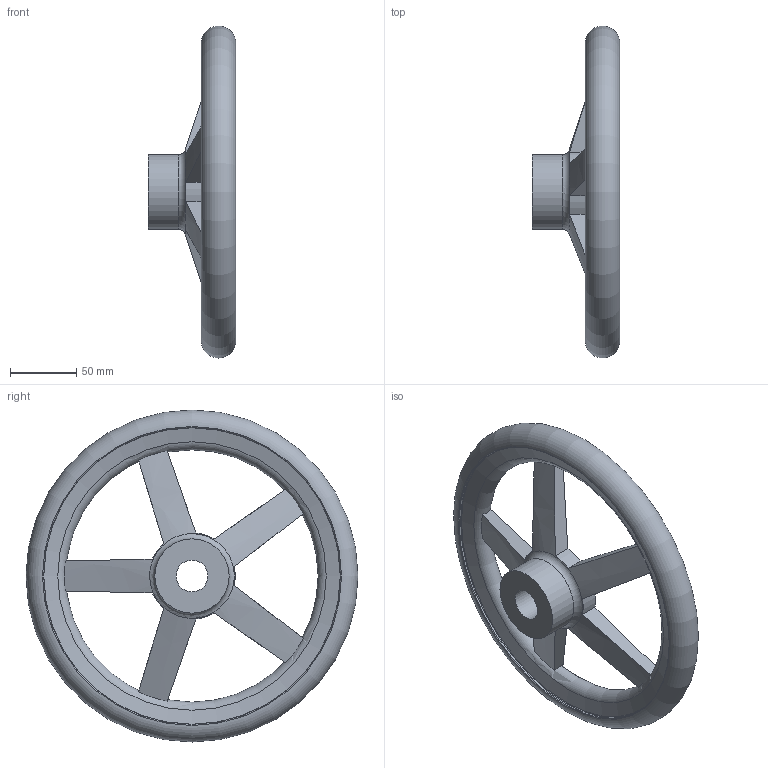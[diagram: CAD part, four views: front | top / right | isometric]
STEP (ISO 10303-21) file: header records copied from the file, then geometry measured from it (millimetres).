
FILE_DESCRIPTION( ( 'STEP AP203' ), '1' );
FILE_NAME( 'C:/Temp/Ganter_Step_05_03_2020/data/1_3/gn_950_1/gn_950_1_b/gn_950_1_b_a/Handwheel GN 950.1-GG-250-B24-A.stp', '2020-03-05T10:32:32', ( 'License CC BY-ND 4.0' ), ( 'CADENAS' ), ' ', 'PARTsolutions', ' ' );
FILE_SCHEMA( ( 'CONFIG_CONTROL_DESIGN' ) );
Length unit declared in the file: millimetre
Products named in the file (1): _Handwheel GN 950.1-GG-250-B24-A
Bounding box: 65.99 x 249.99 x 249.99 mm (x, y, z)
Volume: 559958.7 mm3; surface area: 99396.4 mm2
Topology: 1 solids, 1 shells, 39 faces, 112 edges, 70 vertices
Faces by surface type: torus 13, plane 12, cylinder 10, cone 4
Full cylindrical faces by diameter (mm): 24 x1, 56 x2, 224 x2
Entity records: 1540 total; most frequent: CARTESIAN_POINT 576, ORIENTED_EDGE 186, DIRECTION 176, EDGE_CURVE 93, AXIS2_PLACEMENT_3D 83, VERTEX_POINT 69, EDGE_LOOP 63, FACE_OUTER_BOUND 52
